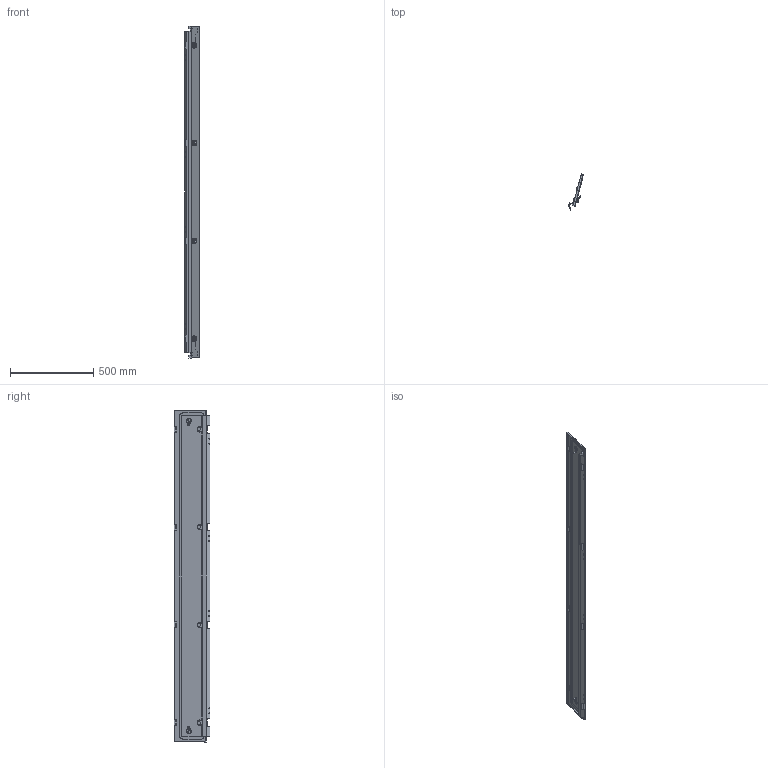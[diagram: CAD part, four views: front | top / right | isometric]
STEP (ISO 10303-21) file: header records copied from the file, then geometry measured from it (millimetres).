
FILE_DESCRIPTION (( 'STEP AP214' ), '1' );
FILE_NAME ('FO-00-DBC-200-020 Äâåðü âñòðîåííîãî îòñåêà 2000õ200 ìì.STEP', '2025-08-20T11:56:54', ( '' ), ( '' ), 'SwSTEP 2.0', 'SolidWorks 2023', '' );
FILE_SCHEMA (( 'AUTOMOTIVE_DESIGN' ));
Length unit declared in the file: millimetre
Products named in the file (1): FO-00-DBC-200-020 Дверь встроенного отсека 2000х200 мм
Bounding box: 89.45 x 214.59 x 1990 mm (x, y, z)
Volume: 1467364.8 mm3; surface area: 1252603.3 mm2
Topology: 1 solids, 13 shells, 1008 faces, 2659 edges, 1730 vertices
Faces by surface type: plane 553, cylinder 352, bspline 60, torus 27, cone 16
Entity records: 35563 total; most frequent: CARTESIAN_POINT 10704, ORIENTED_EDGE 5318, DIRECTION 4981, EDGE_CURVE 2659, VECTOR 1739, LINE 1739, VERTEX_POINT 1730, AXIS2_PLACEMENT_3D 1621
